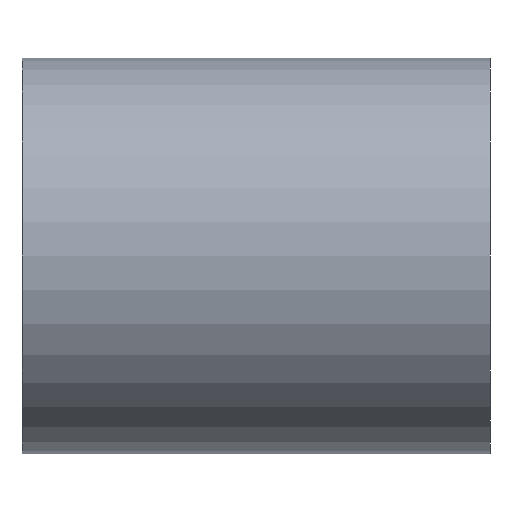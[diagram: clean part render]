
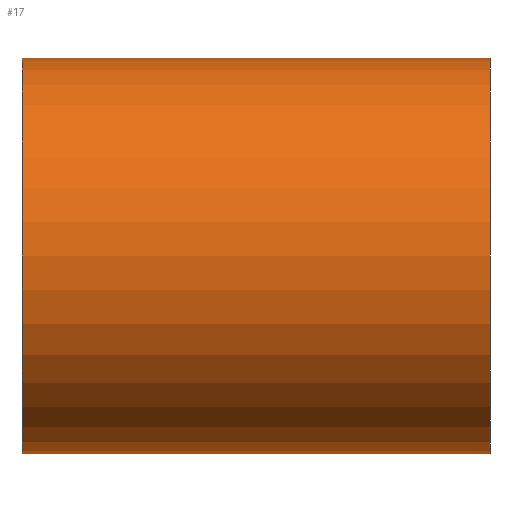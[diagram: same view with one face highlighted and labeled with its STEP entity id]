
A CAD part, left-side view. The second image highlights one B-rep face of the part: STEP entity #17.
In plain terms, the highlighted cylindrical face has radius 3 mm (diameter 6 mm), a full revolution.
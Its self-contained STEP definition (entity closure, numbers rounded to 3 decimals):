
#17 = ADVANCED_FACE('',(#18),#32,.T.);
#18 = FACE_BOUND('',#19,.F.);
#19 = EDGE_LOOP('',(#20,#50,#77,#78));
#20 = ORIENTED_EDGE('',*,*,#21,.T.);
#21 = EDGE_CURVE('',#22,#24,#26,.T.);
#22 = VERTEX_POINT('',#23);
#23 = CARTESIAN_POINT('',(3.,1.5,-16.));
#24 = VERTEX_POINT('',#25);
#25 = CARTESIAN_POINT('',(3.,8.6,-16.));
#26 = SEAM_CURVE('',#27,(#31,#43),.PCURVE_S1.);
#27 = LINE('',#28,#29);
#28 = CARTESIAN_POINT('',(3.,1.5,-16.));
#29 = VECTOR('',#30,1.);
#30 = DIRECTION('',(0.,1.,0.));
#31 = PCURVE('',#32,#37);
#32 = CYLINDRICAL_SURFACE('',#33,3.);
#33 = AXIS2_PLACEMENT_3D('',#34,#35,#36);
#34 = CARTESIAN_POINT('',(0.,1.5,-16.));
#35 = DIRECTION('',(0.,-1.,0.));
#36 = DIRECTION('',(1.,0.,0.));
#37 = DEFINITIONAL_REPRESENTATION('',(#38),#42);
#38 = LINE('',#39,#40);
#39 = CARTESIAN_POINT('',(-0.,0.));
#40 = VECTOR('',#41,1.);
#41 = DIRECTION('',(-0.,-1.));
#42 = ( GEOMETRIC_REPRESENTATION_CONTEXT(2) 
PARAMETRIC_REPRESENTATION_CONTEXT() REPRESENTATION_CONTEXT('2D SPACE',''
  ) );
#43 = PCURVE('',#32,#44);
#44 = DEFINITIONAL_REPRESENTATION('',(#45),#49);
#45 = LINE('',#46,#47);
#46 = CARTESIAN_POINT('',(-6.283,0.));
#47 = VECTOR('',#48,1.);
#48 = DIRECTION('',(-0.,-1.));
#49 = ( GEOMETRIC_REPRESENTATION_CONTEXT(2) 
PARAMETRIC_REPRESENTATION_CONTEXT() REPRESENTATION_CONTEXT('2D SPACE',''
  ) );
#50 = ORIENTED_EDGE('',*,*,#51,.T.);
#51 = EDGE_CURVE('',#24,#24,#52,.T.);
#52 = SURFACE_CURVE('',#53,(#58,#65),.PCURVE_S1.);
#53 = CIRCLE('',#54,3.);
#54 = AXIS2_PLACEMENT_3D('',#55,#56,#57);
#55 = CARTESIAN_POINT('',(0.,8.6,-16.));
#56 = DIRECTION('',(-0.,1.,0.));
#57 = DIRECTION('',(1.,0.,0.));
#58 = PCURVE('',#32,#59);
#59 = DEFINITIONAL_REPRESENTATION('',(#60),#64);
#60 = LINE('',#61,#62);
#61 = CARTESIAN_POINT('',(-0.,-7.1));
#62 = VECTOR('',#63,1.);
#63 = DIRECTION('',(-1.,0.));
#64 = ( GEOMETRIC_REPRESENTATION_CONTEXT(2) 
PARAMETRIC_REPRESENTATION_CONTEXT() REPRESENTATION_CONTEXT('2D SPACE',''
  ) );
#65 = PCURVE('',#66,#71);
#66 = PLANE('',#67);
#67 = AXIS2_PLACEMENT_3D('',#68,#69,#70);
#68 = CARTESIAN_POINT('',(0.,8.6,-16.));
#69 = DIRECTION('',(0.,1.,0.));
#70 = DIRECTION('',(0.,0.,1.));
#71 = DEFINITIONAL_REPRESENTATION('',(#72),#76);
#72 = CIRCLE('',#73,3.);
#73 = AXIS2_PLACEMENT_2D('',#74,#75);
#74 = CARTESIAN_POINT('',(0.,0.));
#75 = DIRECTION('',(0.,1.));
#76 = ( GEOMETRIC_REPRESENTATION_CONTEXT(2) 
PARAMETRIC_REPRESENTATION_CONTEXT() REPRESENTATION_CONTEXT('2D SPACE',''
  ) );
#77 = ORIENTED_EDGE('',*,*,#21,.F.);
#78 = ORIENTED_EDGE('',*,*,#79,.F.);
#79 = EDGE_CURVE('',#22,#22,#80,.T.);
#80 = SURFACE_CURVE('',#81,(#86,#93),.PCURVE_S1.);
#81 = CIRCLE('',#82,3.);
#82 = AXIS2_PLACEMENT_3D('',#83,#84,#85);
#83 = CARTESIAN_POINT('',(0.,1.5,-16.));
#84 = DIRECTION('',(-0.,1.,0.));
#85 = DIRECTION('',(1.,0.,0.));
#86 = PCURVE('',#32,#87);
#87 = DEFINITIONAL_REPRESENTATION('',(#88),#92);
#88 = LINE('',#89,#90);
#89 = CARTESIAN_POINT('',(-0.,0.));
#90 = VECTOR('',#91,1.);
#91 = DIRECTION('',(-1.,0.));
#92 = ( GEOMETRIC_REPRESENTATION_CONTEXT(2) 
PARAMETRIC_REPRESENTATION_CONTEXT() REPRESENTATION_CONTEXT('2D SPACE',''
  ) );
#93 = PCURVE('',#94,#99);
#94 = PLANE('',#95);
#95 = AXIS2_PLACEMENT_3D('',#96,#97,#98);
#96 = CARTESIAN_POINT('',(0.,1.5,-16.));
#97 = DIRECTION('',(0.,1.,0.));
#98 = DIRECTION('',(0.,0.,1.));
#99 = DEFINITIONAL_REPRESENTATION('',(#100),#104);
#100 = CIRCLE('',#101,3.);
#101 = AXIS2_PLACEMENT_2D('',#102,#103);
#102 = CARTESIAN_POINT('',(0.,0.));
#103 = DIRECTION('',(0.,1.));
#104 = ( GEOMETRIC_REPRESENTATION_CONTEXT(2) 
PARAMETRIC_REPRESENTATION_CONTEXT() REPRESENTATION_CONTEXT('2D SPACE',''
  ) );
